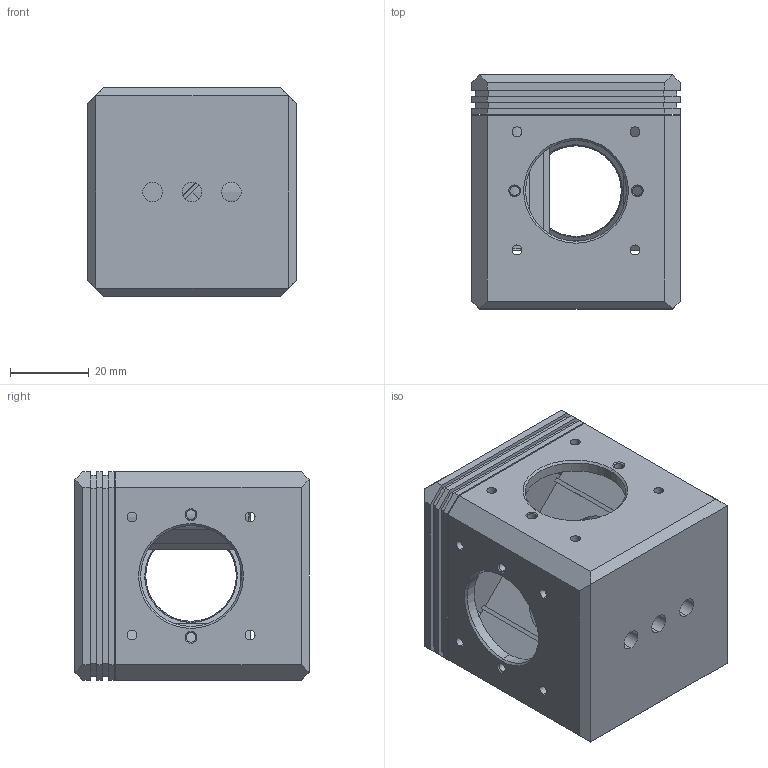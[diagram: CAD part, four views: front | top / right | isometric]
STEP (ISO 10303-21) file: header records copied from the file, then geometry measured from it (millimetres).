
FILE_DESCRIPTION (( 'STEP AP203' ), '1' );
FILE_NAME ('CSC1Q-MPL.STEP', '2024-03-28T03:20:16', ( '' ), ( '' ), 'SwSTEP 2.0', 'SolidWorks 2021', '' );
FILE_SCHEMA (( 'CONFIG_CONTROL_DESIGN' ));
Length unit declared in the file: millimetre
Products named in the file (1): CSC1Q-MPL
Bounding box: 53 x 59.5 x 53 mm (x, y, z)
Surface area: 30678 mm2 (no closed solid volume)
Topology: 0 solids, 23 shells, 292 faces, 1346 edges, 1068 vertices
Faces by surface type: plane 161, cylinder 82, cone 44, bspline 5
Entity records: 15472 total; most frequent: CARTESIAN_POINT 4788, DIRECTION 2057, ORIENTED_EDGE 1932, EDGE_CURVE 1346, VERTEX_POINT 1068, VECTOR 939, LINE 939, AXIS2_PLACEMENT_3D 559
